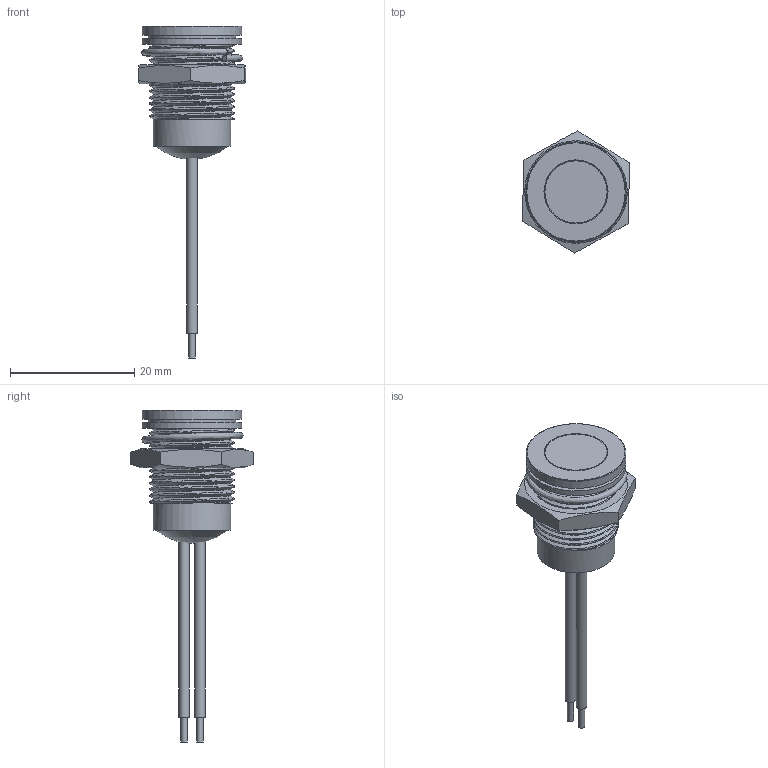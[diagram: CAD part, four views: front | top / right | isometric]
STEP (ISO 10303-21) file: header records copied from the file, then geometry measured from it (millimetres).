
FILE_DESCRIPTION( ( 'Unknown' ), '1' );
FILE_NAME( 'D:/My Documents/Q series 3D files/Q14F5CXXR.stp', 'Unknown', ( 'Unknown' ), ( 'Unknown' ), 'PSStep 15.0.49', 'Unknown', ' ' );
FILE_SCHEMA( ( 'AUTOMOTIVE_DESIGN { 1 0 10303 214 1 1 1 1 }' ) );
Length unit declared in the file: millimetre
Products named in the file (9): Assem1; 13-0037; 21-0027; 34-0087; 10mm-flat led-cut; 14mm epoxy ; 26-0049; wire-black; wire-red
Assembly tree (8 placements, depth 2):
  Assem1
    13-0037
    21-0027
    34-0087
    10mm-flat led-cut
    14mm epoxy 
    26-0049
    wire-black
    wire-red
Bounding box: 17.23 x 19.62 x 53.35 mm (x, y, z)
Volume: 2779.5 mm3; surface area: 4205.3 mm2
Topology: 8 solids, 8 shells, 111 faces, 235 edges, 152 vertices
Faces by surface type: plane 62, cylinder 32, bspline 8, cone 5, torus 3, sphere 1
Full cylindrical faces by diameter (mm): 1 x4, 1.2 x2, 1.7 x2, 10 x1, 10.1 x1, 11.5 x2, 12.5 x12, 13.8 x1, 14 x1, 16 x2
Entity records: 14896 total; most frequent: CARTESIAN_POINT 12115, DIRECTION 389, ORIENTED_EDGE 318, AXIS2_PLACEMENT_3D 161, EDGE_CURVE 159, EDGE_LOOP 142, FACE_OUTER_BOUND 119, VERTEX_POINT 116
